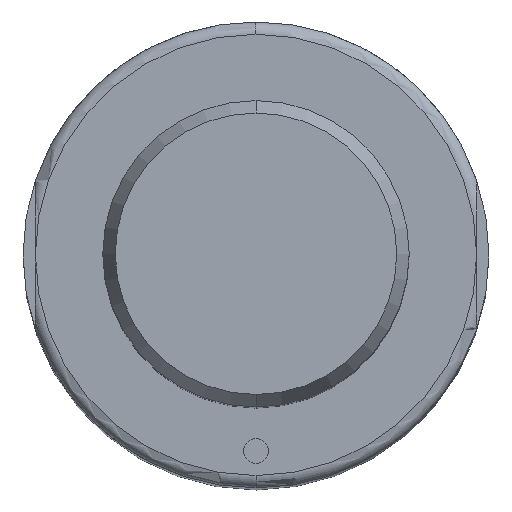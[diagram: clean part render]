
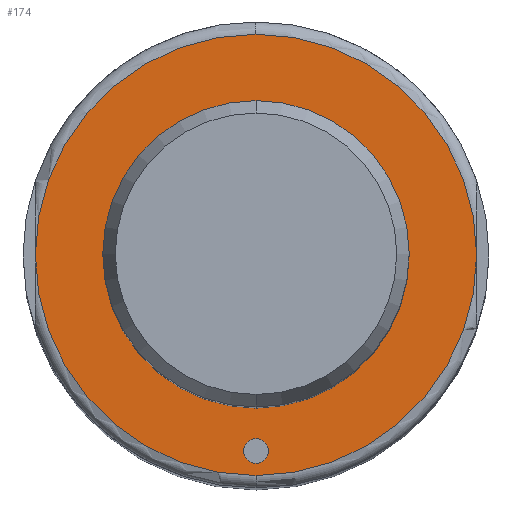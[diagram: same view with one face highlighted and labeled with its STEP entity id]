
A CAD part, top view. The second image highlights one B-rep face of the part: STEP entity #174.
In plain terms, the highlighted planar face has unit normal (0, 0, 1).
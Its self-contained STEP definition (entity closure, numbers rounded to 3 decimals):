
#105=FACE_BOUND('',#298,.T.);
#106=FACE_BOUND('',#299,.T.);
#107=FACE_BOUND('',#300,.T.);
#125=PLANE('',#985);
#174=ADVANCED_FACE('',(#105,#106,#107),#125,.T.);
#298=EDGE_LOOP('',(#459,#460,#461,#462));
#299=EDGE_LOOP('',(#463,#464));
#300=EDGE_LOOP('',(#465,#466));
#367=CIRCLE('',#968,12.5);
#368=CIRCLE('',#970,12.5);
#373=CIRCLE('',#979,18.);
#374=CIRCLE('',#980,18.);
#375=CIRCLE('',#981,18.);
#376=CIRCLE('',#982,18.);
#377=CIRCLE('',#983,1.);
#378=CIRCLE('',#984,1.);
#459=ORIENTED_EDGE('',*,*,#765,.F.);
#460=ORIENTED_EDGE('',*,*,#766,.F.);
#461=ORIENTED_EDGE('',*,*,#767,.F.);
#462=ORIENTED_EDGE('',*,*,#768,.F.);
#463=ORIENTED_EDGE('',*,*,#769,.F.);
#464=ORIENTED_EDGE('',*,*,#770,.F.);
#465=ORIENTED_EDGE('',*,*,#758,.T.);
#466=ORIENTED_EDGE('',*,*,#756,.T.);
#677=VERTEX_POINT('',#1411);
#678=VERTEX_POINT('',#1413);
#683=VERTEX_POINT('',#1432);
#684=VERTEX_POINT('',#1433);
#685=VERTEX_POINT('',#1435);
#686=VERTEX_POINT('',#1437);
#687=VERTEX_POINT('',#1440);
#688=VERTEX_POINT('',#1441);
#756=EDGE_CURVE('',#678,#677,#367,.T.);
#758=EDGE_CURVE('',#677,#678,#368,.T.);
#765=EDGE_CURVE('',#683,#684,#373,.T.);
#766=EDGE_CURVE('',#685,#683,#374,.T.);
#767=EDGE_CURVE('',#686,#685,#375,.T.);
#768=EDGE_CURVE('',#684,#686,#376,.T.);
#769=EDGE_CURVE('',#687,#688,#377,.T.);
#770=EDGE_CURVE('',#688,#687,#378,.T.);
#968=AXIS2_PLACEMENT_3D('',#1412,#1108,#1109);
#970=AXIS2_PLACEMENT_3D('',#1416,#1113,#1114);
#979=AXIS2_PLACEMENT_3D('',#1431,#1133,#1134);
#980=AXIS2_PLACEMENT_3D('',#1434,#1135,#1136);
#981=AXIS2_PLACEMENT_3D('',#1436,#1137,#1138);
#982=AXIS2_PLACEMENT_3D('',#1438,#1139,#1140);
#983=AXIS2_PLACEMENT_3D('',#1439,#1141,#1142);
#984=AXIS2_PLACEMENT_3D('',#1442,#1143,#1144);
#985=AXIS2_PLACEMENT_3D('',#1443,#1145,#1146);
#1108=DIRECTION('',(0.,0.,-1.));
#1109=DIRECTION('',(-1.,0.,0.));
#1113=DIRECTION('',(0.,0.,-1.));
#1114=DIRECTION('',(1.,0.,0.));
#1133=DIRECTION('',(0.,0.,-1.));
#1134=DIRECTION('',(-1.,0.,0.));
#1135=DIRECTION('',(0.,0.,-1.));
#1136=DIRECTION('',(1.,0.,0.));
#1137=DIRECTION('',(0.,0.,-1.));
#1138=DIRECTION('',(1.,0.,0.));
#1139=DIRECTION('',(0.,0.,-1.));
#1140=DIRECTION('',(-1.,0.,0.));
#1141=DIRECTION('',(0.,0.,1.));
#1142=DIRECTION('',(1.,0.,0.));
#1143=DIRECTION('',(0.,0.,1.));
#1144=DIRECTION('',(-1.,0.,0.));
#1145=DIRECTION('',(0.,0.,1.));
#1146=DIRECTION('',(1.,0.,0.));
#1411=CARTESIAN_POINT('',(0.,-12.5,103.));
#1412=CARTESIAN_POINT('',(0.,0.,103.));
#1413=CARTESIAN_POINT('',(0.,12.5,103.));
#1416=CARTESIAN_POINT('',(0.,0.,103.));
#1431=CARTESIAN_POINT('',(0.,0.,103.));
#1432=CARTESIAN_POINT('',(0.,18.,103.));
#1433=CARTESIAN_POINT('',(18.,0.,103.));
#1434=CARTESIAN_POINT('',(0.,0.,103.));
#1435=CARTESIAN_POINT('',(-18.,0.,103.));
#1436=CARTESIAN_POINT('',(0.,0.,103.));
#1437=CARTESIAN_POINT('',(0.,-18.,103.));
#1438=CARTESIAN_POINT('',(0.,0.,103.));
#1439=CARTESIAN_POINT('',(0.,-16.,103.));
#1440=CARTESIAN_POINT('',(0.,-15.,103.));
#1441=CARTESIAN_POINT('',(0.,-17.,103.));
#1442=CARTESIAN_POINT('',(0.,-16.,103.));
#1443=CARTESIAN_POINT('',(0.,0.,103.));
